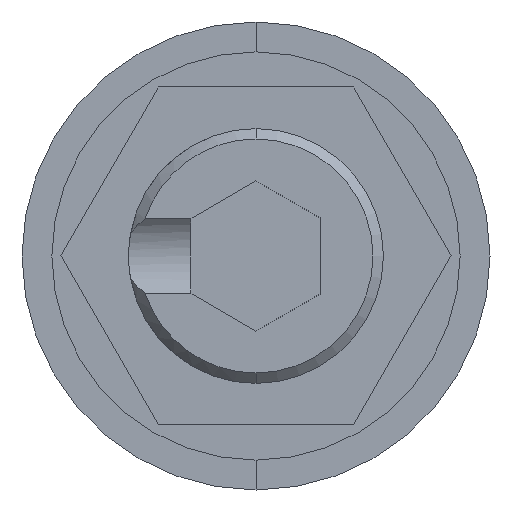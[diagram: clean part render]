
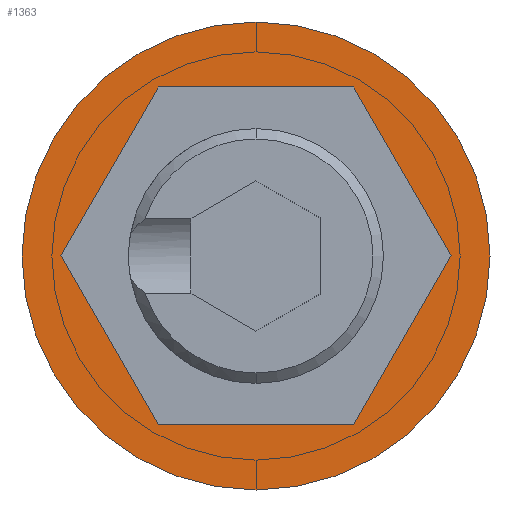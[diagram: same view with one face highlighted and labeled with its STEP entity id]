
A CAD part, front view. The second image highlights one B-rep face of the part: STEP entity #1363.
In plain terms, the highlighted planar face has unit normal (0, -1, 0).
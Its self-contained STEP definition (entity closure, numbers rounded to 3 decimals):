
#9 = ORIENTED_EDGE ( 'NONE', *, *, #1964, .T. ) ;
#34 = LINE ( 'NONE', #2081, #41 ) ;
#41 = VECTOR ( 'NONE', #2083, 1000. ) ;
#103 = CARTESIAN_POINT ( 'NONE',  ( -3.753, 0., 0. ) ) ;
#107 = VECTOR ( 'NONE', #413, 1000. ) ;
#130 = EDGE_CURVE ( 'NONE', #916, #554, #1093, .T. ) ;
#148 = CARTESIAN_POINT ( 'NONE',  ( 3.753, 0., 0. ) ) ;
#178 = DIRECTION ( 'NONE',  ( 0., -1., 0. ) ) ;
#184 = DIRECTION ( 'NONE',  ( 0., 0., -1. ) ) ;
#202 = ORIENTED_EDGE ( 'NONE', *, *, #1319, .F. ) ;
#204 = DIRECTION ( 'NONE',  ( 0.5, 0., -0.866 ) ) ;
#209 = CARTESIAN_POINT ( 'NONE',  ( 0., 0., 0. ) ) ;
#215 = FACE_OUTER_BOUND ( 'NONE', #1436, .T. ) ;
#326 = CARTESIAN_POINT ( 'NONE',  ( -1.876, 0., -3.25 ) ) ;
#329 = ORIENTED_EDGE ( 'NONE', *, *, #130, .T. ) ;
#341 = VERTEX_POINT ( 'NONE', #1028 ) ;
#367 = CARTESIAN_POINT ( 'NONE',  ( 1.876, 0., -3.25 ) ) ;
#413 = DIRECTION ( 'NONE',  ( 1., 0., 0. ) ) ;
#440 = ORIENTED_EDGE ( 'NONE', *, *, #1888, .F. ) ;
#445 = EDGE_CURVE ( 'NONE', #341, #537, #982, .T. ) ;
#451 = VECTOR ( 'NONE', #1254, 1000. ) ;
#459 = DIRECTION ( 'NONE',  ( -0.5, 0., 0.866 ) ) ;
#491 = CARTESIAN_POINT ( 'NONE',  ( 3.753, 0., 0. ) ) ;
#537 = VERTEX_POINT ( 'NONE', #1380 ) ;
#544 = CARTESIAN_POINT ( 'NONE',  ( 0., 0., 0. ) ) ;
#547 = DIRECTION ( 'NONE',  ( 0., 0., -1. ) ) ;
#554 = VERTEX_POINT ( 'NONE', #1398 ) ;
#621 = ORIENTED_EDGE ( 'NONE', *, *, #1163, .F. ) ;
#632 = FACE_BOUND ( 'NONE', #1326, .T. ) ;
#670 = CIRCLE ( 'NONE', #1948, 4.5 ) ;
#694 = ORIENTED_EDGE ( 'NONE', *, *, #1261, .F. ) ;
#696 = VECTOR ( 'NONE', #459, 1000. ) ;
#700 = CARTESIAN_POINT ( 'NONE',  ( 0., 0., 0. ) ) ;
#703 = DIRECTION ( 'NONE',  ( 0., -1., 0. ) ) ;
#710 = DIRECTION ( 'NONE',  ( 0., 0., -1. ) ) ;
#724 = LINE ( 'NONE', #2218, #771 ) ;
#747 = VERTEX_POINT ( 'NONE', #1926 ) ;
#750 = DIRECTION ( 'NONE',  ( 0., -1., 0. ) ) ;
#771 = VECTOR ( 'NONE', #2217, 1000. ) ;
#900 = PLANE ( 'NONE',  #2078 ) ;
#916 = VERTEX_POINT ( 'NONE', #1637 ) ;
#982 = LINE ( 'NONE', #1253, #451 ) ;
#1012 = ORIENTED_EDGE ( 'NONE', *, *, #1963, .F. ) ;
#1028 = CARTESIAN_POINT ( 'NONE',  ( -1.876, 0., 3.25 ) ) ;
#1041 = VECTOR ( 'NONE', #204, 1000. ) ;
#1093 = CIRCLE ( 'NONE', #1829, 4.5 ) ;
#1163 = EDGE_CURVE ( 'NONE', #1617, #341, #34, .T. ) ;
#1253 = CARTESIAN_POINT ( 'NONE',  ( -1.876, 0., 3.25 ) ) ;
#1254 = DIRECTION ( 'NONE',  ( -0.5, 0., -0.866 ) ) ;
#1258 = VERTEX_POINT ( 'NONE', #367 ) ;
#1261 = EDGE_CURVE ( 'NONE', #747, #1258, #1464, .T. ) ;
#1319 = EDGE_CURVE ( 'NONE', #1999, #1617, #1664, .T. ) ;
#1326 = EDGE_LOOP ( 'NONE', ( #694, #1012, #1658, #621, #202, #440 ) ) ;
#1363 = ADVANCED_FACE ( 'NONE', ( #632, #215 ), #900, .T. ) ;
#1380 = CARTESIAN_POINT ( 'NONE',  ( -3.753, 0., 0. ) ) ;
#1398 = CARTESIAN_POINT ( 'NONE',  ( 0., 0., 4.5 ) ) ;
#1436 = EDGE_LOOP ( 'NONE', ( #329, #9 ) ) ;
#1464 = LINE ( 'NONE', #326, #107 ) ;
#1536 = LINE ( 'NONE', #103, #1041 ) ;
#1617 = VERTEX_POINT ( 'NONE', #1738 ) ;
#1637 = CARTESIAN_POINT ( 'NONE',  ( 0., 0., -4.5 ) ) ;
#1658 = ORIENTED_EDGE ( 'NONE', *, *, #445, .F. ) ;
#1664 = LINE ( 'NONE', #491, #696 ) ;
#1738 = CARTESIAN_POINT ( 'NONE',  ( 1.876, 0., 3.25 ) ) ;
#1829 = AXIS2_PLACEMENT_3D ( 'NONE', #700, #703, #710 ) ;
#1888 = EDGE_CURVE ( 'NONE', #1258, #1999, #724, .T. ) ;
#1926 = CARTESIAN_POINT ( 'NONE',  ( -1.876, 0., -3.25 ) ) ;
#1948 = AXIS2_PLACEMENT_3D ( 'NONE', #209, #178, #184 ) ;
#1963 = EDGE_CURVE ( 'NONE', #537, #747, #1536, .T. ) ;
#1964 = EDGE_CURVE ( 'NONE', #554, #916, #670, .T. ) ;
#1999 = VERTEX_POINT ( 'NONE', #148 ) ;
#2078 = AXIS2_PLACEMENT_3D ( 'NONE', #544, #750, #547 ) ;
#2081 = CARTESIAN_POINT ( 'NONE',  ( 1.876, 0., 3.25 ) ) ;
#2083 = DIRECTION ( 'NONE',  ( -1., 0., 0. ) ) ;
#2217 = DIRECTION ( 'NONE',  ( 0.5, 0., 0.866 ) ) ;
#2218 = CARTESIAN_POINT ( 'NONE',  ( 1.876, 0., -3.25 ) ) ;
